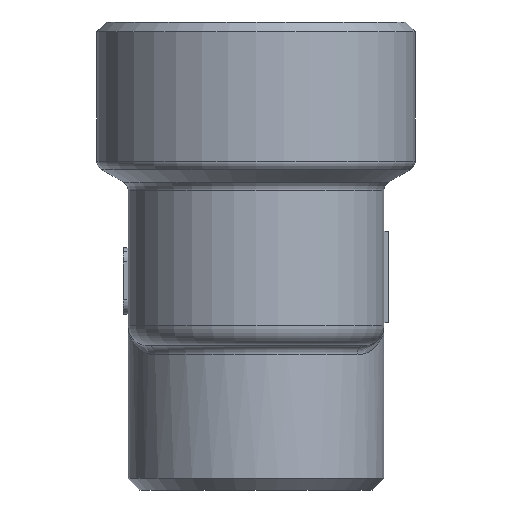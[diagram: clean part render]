
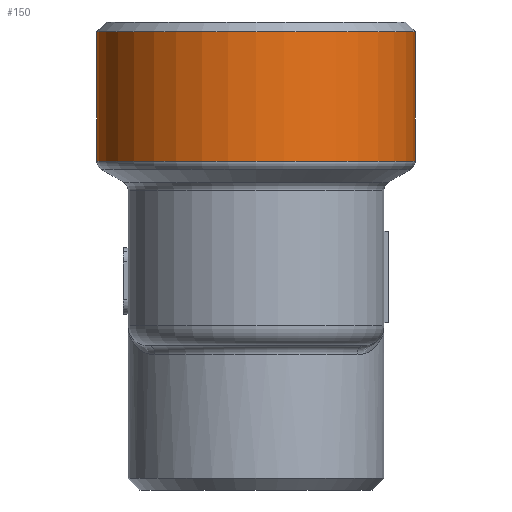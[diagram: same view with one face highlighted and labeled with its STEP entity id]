
A CAD part, front view. The second image highlights one B-rep face of the part: STEP entity #150.
In plain terms, the highlighted cylindrical face has radius 16.5 mm (diameter 33 mm), a full revolution.
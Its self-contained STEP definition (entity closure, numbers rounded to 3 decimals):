
#150=ADVANCED_FACE('',(#1175,#1177),#1179,.T.);
#1175=FACE_OUTER_BOUND('',#1176,.T.);
#1176=EDGE_LOOP('',(#2312));
#1177=FACE_OUTER_BOUND('',#1178,.T.);
#1178=EDGE_LOOP('',(#2313));
#1179=CYLINDRICAL_SURFACE('',#1180,16.5);
#1180=AXIS2_PLACEMENT_3D('',#1181,#1182,#1183);
#1181=CARTESIAN_POINT('',(0.,-30.,33.5));
#1182=DIRECTION('',(0.,0.,1.));
#1183=DIRECTION('',(0.,1.,0.));
#2312=ORIENTED_EDGE('',*,*,#2686,.F.);
#2313=ORIENTED_EDGE('',*,*,#2659,.F.);
#2659=EDGE_CURVE('',#3149,#3149,#3150,.F.);
#2686=EDGE_CURVE('',#3192,#3192,#3193,.T.);
#3149=VERTEX_POINT('',#4331);
#3150=CIRCLE('',#4332,16.5);
#3192=VERTEX_POINT('',#4432);
#3193=CIRCLE('',#4433,16.5);
#4331=CARTESIAN_POINT('',(0.,-13.5,34.077));
#4332=AXIS2_PLACEMENT_3D('',#4333,#4334,#4335);
#4333=CARTESIAN_POINT('',(0.,-30.,34.077));
#4334=DIRECTION('',(0.,0.,1.));
#4335=DIRECTION('',(0.,1.,0.));
#4432=CARTESIAN_POINT('',(0.,-13.5,47.5));
#4433=AXIS2_PLACEMENT_3D('',#4434,#4435,#4436);
#4434=CARTESIAN_POINT('',(0.,-30.,47.5));
#4435=DIRECTION('',(0.,0.,1.));
#4436=DIRECTION('',(0.,1.,0.));
